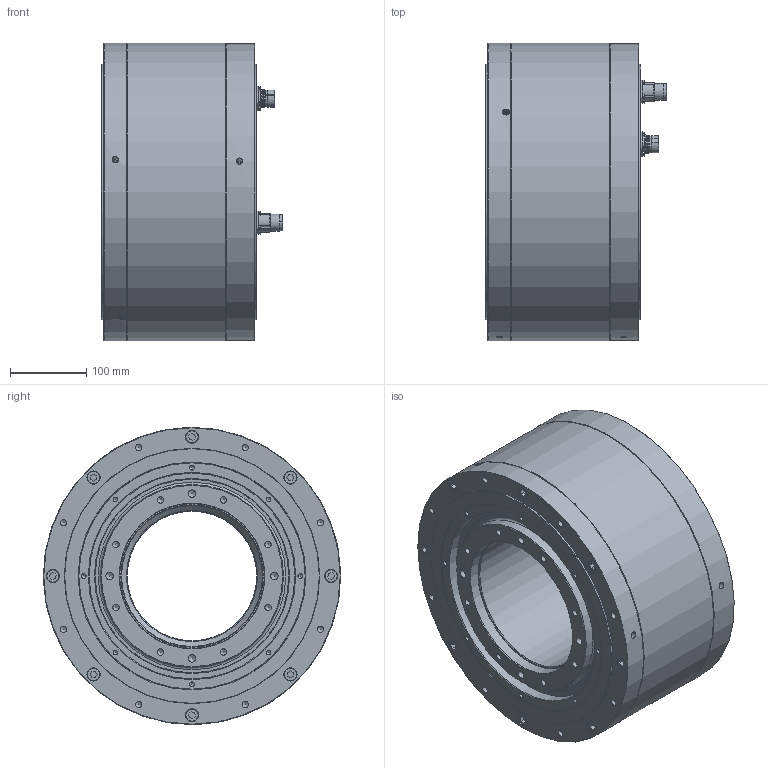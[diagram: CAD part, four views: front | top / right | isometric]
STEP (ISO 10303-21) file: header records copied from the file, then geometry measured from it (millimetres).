
FILE_DESCRIPTION( ( 'Unknown' ), '1' );
FILE_NAME( 'Q:/SKA DDR in acciaio/WEB File/SKA RT 335/3D/335CC046.stp', 'Unknown', ( 'Unknown' ), ( 'Unknown' ), 'PSStep 14.0', 'Unknown', ' ' );
FILE_SCHEMA( ( 'AUTOMOTIVE_DESIGN { 1 0 10303 214 1 1 1 1 }' ) );
Length unit declared in the file: millimetre
Products named in the file (17): Assem1; CN M23 PAN-POT BEGA 120 4 + 4 pin SpTcR; CN M23 PAN-SEG AEGA 139 17 pin SpTcR; 335FF019; 335VV017; 335FP006_rev3; 335FC001_rev3; Vite a brugola testa cil 12,9 -  M 10 x 40; Vite a brugola testa cil 8,8 -  M 2,5 x 8; Vite a brugola testa svasata 10,9 -  M  4 x 14; Vite a brugola testa cil 12,9 -  M 10 x 45; Anello OR 3 D270-oa0; Anello OR 3,53 D329,8-41300-oa1; Anello OR 3,53 D329,8-41300-oa2; Grano senza punta M  6 x 10; 335FS018; 335GG016_rev3
Assembly tree (52 placements, depth 2):
  Assem1
    CN M23 PAN-POT BEGA 120 4 + 4 pin SpTcR
    CN M23 PAN-SEG AEGA 139 17 pin SpTcR
    335FF019
    335VV017
    335FP006_rev3
    335FC001_rev3
    Vite a brugola testa cil 12,9 -  M 10 x 40  x8
    Vite a brugola testa cil 8,8 -  M 2,5 x 8  x15
    Vite a brugola testa svasata 10,9 -  M  4 x 14  x8
    Vite a brugola testa cil 12,9 -  M 10 x 45  x8
    Anello OR 3 D270-oa0
    Anello OR 3,53 D329,8-41300-oa1
    Anello OR 3,53 D329,8-41300-oa2
    Grano senza punta M  6 x 10  x2
    335FS018
    335GG016_rev3
Bounding box: 237.5 x 390 x 390 mm (x, y, z)
Volume: 12215921.2 mm3; surface area: 1512932.7 mm2
Topology: 52 solids, 52 shells, 1182 faces, 2655 edges, 1728 vertices
Faces by surface type: plane 549, cylinder 392, cone 201, torus 32, sphere 8
Full cylindrical faces by diameter (mm): 1.5 x4, 2 x17, 2.013 x8, 2.5 x19, 2.7 x4, 2.8 x4, 3.242 x20, 3.4 x8, 4 x10, 4.134 x12, 4.5 x8, 4.7 x15, 4.917 x2, 6 x10, 8.376 x68, 8.5 x8, 9 x2, 10 x24, 10.5 x24, 16 x16, 17 x2, 17.5 x16, 19.8 x2, 20 x3, 21 x2, 21.5 x2, 22 x2, 23 x2, 170 x1, 172 x1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
Entity records: 21628 total; most frequent: CARTESIAN_POINT 3231, DIRECTION 3100, ORIENTED_EDGE 1922, AXIS2_PLACEMENT_3D 1426, EDGE_LOOP 1368, FACE_OUTER_BOUND 1003, EDGE_CURVE 961, VERTEX_POINT 921
